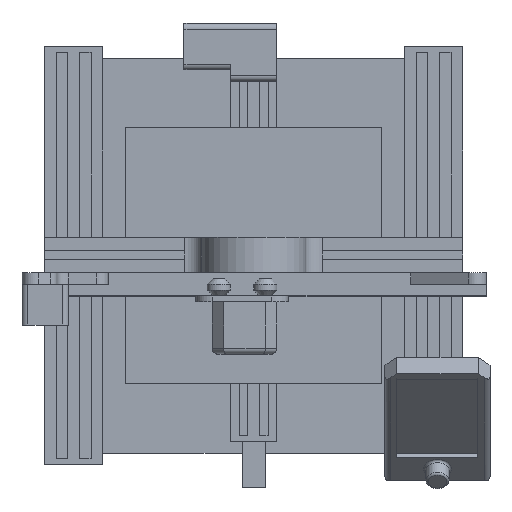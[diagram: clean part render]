
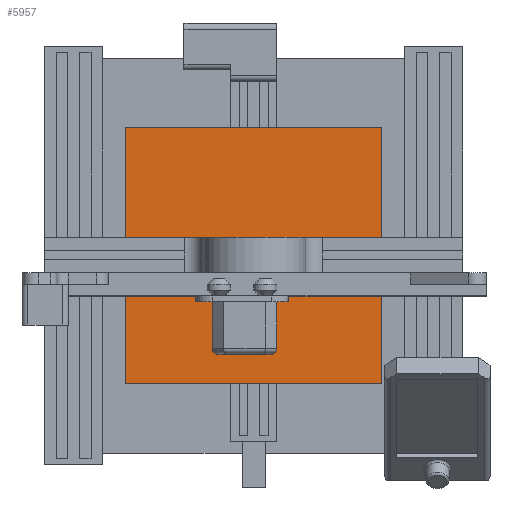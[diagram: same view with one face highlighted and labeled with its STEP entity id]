
A CAD part, top view. The second image highlights one B-rep face of the part: STEP entity #5957.
In plain terms, the highlighted planar face has unit normal (0, 0, 1).
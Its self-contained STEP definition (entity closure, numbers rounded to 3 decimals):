
#167=PLANE('',#6391);
#540=FACE_OUTER_BOUND('',#885,.T.);
#885=EDGE_LOOP('',(#4869,#4870,#4871,#4872));
#1390=LINE('',#9024,#2149);
#1392=LINE('',#9028,#2151);
#1394=LINE('',#9032,#2153);
#1396=LINE('',#9035,#2155);
#2149=VECTOR('',#7367,10.);
#2151=VECTOR('',#7371,10.);
#2153=VECTOR('',#7375,10.);
#2155=VECTOR('',#7379,10.);
#2932=VERTEX_POINT('',#9021);
#2933=VERTEX_POINT('',#9023);
#2934=VERTEX_POINT('',#9027);
#2935=VERTEX_POINT('',#9031);
#3612=EDGE_CURVE('',#2933,#2932,#1390,.T.);
#3614=EDGE_CURVE('',#2934,#2933,#1392,.T.);
#3616=EDGE_CURVE('',#2935,#2934,#1394,.T.);
#3618=EDGE_CURVE('',#2932,#2935,#1396,.T.);
#4869=ORIENTED_EDGE('',*,*,#3618,.T.);
#4870=ORIENTED_EDGE('',*,*,#3616,.T.);
#4871=ORIENTED_EDGE('',*,*,#3614,.T.);
#4872=ORIENTED_EDGE('',*,*,#3612,.T.);
#5957=ADVANCED_FACE('',(#540),#167,.T.);
#6391=AXIS2_PLACEMENT_3D('',#9036,#7380,#7381);
#7367=DIRECTION('',(-1.,0.,0.));
#7371=DIRECTION('',(0.,1.,0.));
#7375=DIRECTION('',(1.,0.,0.));
#7379=DIRECTION('',(0.,-1.,0.));
#7380=DIRECTION('center_axis',(0.,0.,1.));
#7381=DIRECTION('ref_axis',(1.,0.,0.));
#9021=CARTESIAN_POINT('',(-11.,11.,10.));
#9023=CARTESIAN_POINT('',(11.,11.,10.));
#9024=CARTESIAN_POINT('',(11.,11.,10.));
#9027=CARTESIAN_POINT('',(11.,-11.,10.));
#9028=CARTESIAN_POINT('',(11.,-11.,10.));
#9031=CARTESIAN_POINT('',(-11.,-11.,10.));
#9032=CARTESIAN_POINT('',(-11.,-11.,10.));
#9035=CARTESIAN_POINT('',(-11.,11.,10.));
#9036=CARTESIAN_POINT('Origin',(0.,0.,10.));
